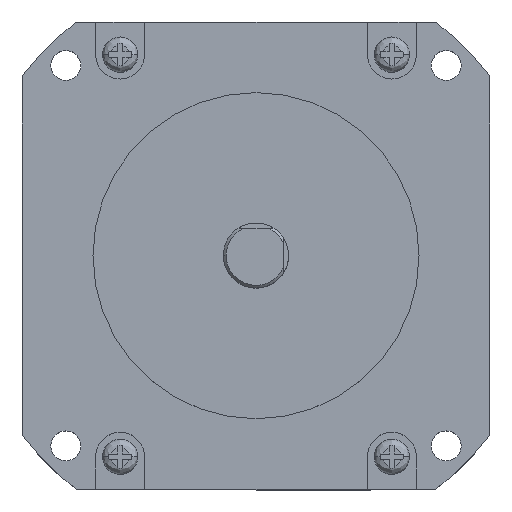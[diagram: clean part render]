
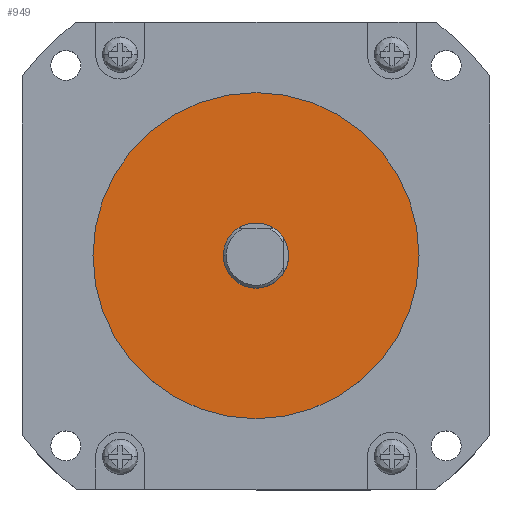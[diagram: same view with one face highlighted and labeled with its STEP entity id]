
A CAD part, top view. The second image highlights one B-rep face of the part: STEP entity #949.
In plain terms, the highlighted planar face has unit normal (0, 0, 1).
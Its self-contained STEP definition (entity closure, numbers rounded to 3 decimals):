
#173 = VERTEX_POINT ( 'NONE', #6639 ) ;
#356 = VERTEX_POINT ( 'NONE', #6129 ) ;
#518 = ORIENTED_EDGE ( 'NONE', *, *, #5902, .T. ) ;
#531 = DIRECTION ( 'NONE',  ( -1., 0., 0. ) ) ;
#652 = VERTEX_POINT ( 'NONE', #5091 ) ;
#676 = DIRECTION ( 'NONE',  ( 0., 0., -1. ) ) ;
#730 = CARTESIAN_POINT ( 'NONE',  ( 0., 0., 6.25 ) ) ;
#949 = ADVANCED_FACE ( 'NONE', ( #1361, #3566 ), #3068, .T. ) ;
#1361 = FACE_BOUND ( 'NONE', #3683, .T. ) ;
#1364 = DIRECTION ( 'NONE',  ( 0., 0., -1. ) ) ;
#1448 = EDGE_CURVE ( 'NONE', #356, #652, #3319, .T. ) ;
#1563 = ORIENTED_EDGE ( 'NONE', *, *, #4934, .T. ) ;
#1764 = CARTESIAN_POINT ( 'NONE',  ( 0., 0., 6.25 ) ) ;
#1974 = CARTESIAN_POINT ( 'NONE',  ( 0., 0., 6.25 ) ) ;
#1975 = ORIENTED_EDGE ( 'NONE', *, *, #2628, .F. ) ;
#1980 = DIRECTION ( 'NONE',  ( -1., 0., 0. ) ) ;
#2006 = DIRECTION ( 'NONE',  ( 0., 0., -1. ) ) ;
#2008 = CARTESIAN_POINT ( 'NONE',  ( -6., 0., 6.25 ) ) ;
#2303 = AXIS2_PLACEMENT_3D ( 'NONE', #1974, #4782, #4678 ) ;
#2309 = DIRECTION ( 'NONE',  ( -1., 0., 0. ) ) ;
#2422 = AXIS2_PLACEMENT_3D ( 'NONE', #4570, #1364, #5120 ) ;
#2628 = EDGE_CURVE ( 'NONE', #652, #356, #3043, .T. ) ;
#3043 = CIRCLE ( 'NONE', #5873, 30. ) ;
#3068 = PLANE ( 'NONE',  #2303 ) ;
#3251 = EDGE_LOOP ( 'NONE', ( #1975, #6838 ) ) ;
#3319 = CIRCLE ( 'NONE', #4027, 30. ) ;
#3566 = FACE_OUTER_BOUND ( 'NONE', #3251, .T. ) ;
#3683 = EDGE_LOOP ( 'NONE', ( #518, #1563 ) ) ;
#3790 = CARTESIAN_POINT ( 'NONE',  ( 0., 0., 6.25 ) ) ;
#4027 = AXIS2_PLACEMENT_3D ( 'NONE', #3790, #2006, #1980 ) ;
#4471 = CIRCLE ( 'NONE', #5123, 6. ) ;
#4570 = CARTESIAN_POINT ( 'NONE',  ( 0., 0., 6.25 ) ) ;
#4678 = DIRECTION ( 'NONE',  ( 1., 0., 0. ) ) ;
#4782 = DIRECTION ( 'NONE',  ( 0., 0., 1. ) ) ;
#4934 = EDGE_CURVE ( 'NONE', #173, #5071, #6133, .T. ) ;
#5071 = VERTEX_POINT ( 'NONE', #2008 ) ;
#5091 = CARTESIAN_POINT ( 'NONE',  ( -30., 0., 6.25 ) ) ;
#5120 = DIRECTION ( 'NONE',  ( -1., 0., 0. ) ) ;
#5123 = AXIS2_PLACEMENT_3D ( 'NONE', #1764, #5519, #2309 ) ;
#5519 = DIRECTION ( 'NONE',  ( 0., 0., -1. ) ) ;
#5873 = AXIS2_PLACEMENT_3D ( 'NONE', #730, #676, #531 ) ;
#5902 = EDGE_CURVE ( 'NONE', #5071, #173, #4471, .T. ) ;
#6129 = CARTESIAN_POINT ( 'NONE',  ( 30., 0., 6.25 ) ) ;
#6133 = CIRCLE ( 'NONE', #2422, 6. ) ;
#6639 = CARTESIAN_POINT ( 'NONE',  ( 6., 0., 6.25 ) ) ;
#6838 = ORIENTED_EDGE ( 'NONE', *, *, #1448, .F. ) ;
